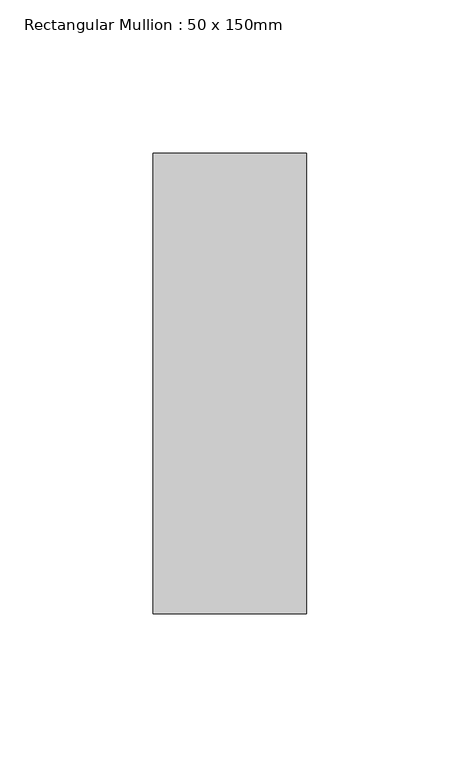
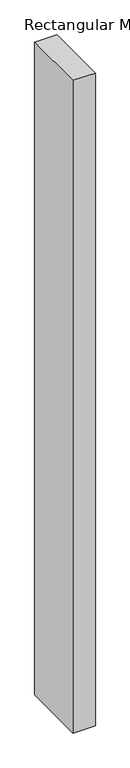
"""IFC4 building model written with IfcOpenShell, lengths in millimetres: member geometry, Rectangular Mullion : 50 x 150mm."""

from ifc_helpers import new_model, si_unit, frame, origin, place, context, project, spatial, polyline, outline, extrude, source, transform, mapped, element, save


def rectangular_mullion_50_x_150mm_52d5b9e4(model_context):
    return source(origin(), model_context, "Body", "SweptSolid", [
        extrude(outline(polyline([(0.0, 0.0), (-0.1256441, -50.0), (-1554.7616657, -50.0), (-1554.8632728, 0.0), (0.0, 0.0)])), frame((0.0, -75.0, 0.0), z_axis=(0.0, 1.0, 0.0), x_axis=(0.0, 0.0, 1.0)), (0.0, 0.0, 1.0), 150.0),
    ])


if __name__ == "__main__":
    model = new_model("IFC4")
    model_context = context("Model", 3, world=origin())
    ifc_project = project(units=[si_unit("LENGTHUNIT", "METRE", prefix="MILLI")], contexts=[model_context])
    site = spatial("IfcSite", under=ifc_project)
    building = spatial("IfcBuilding", under=site)
    placement = place(None, origin())
    rectangular_mullion_50_x_150mm_shape = rectangular_mullion_50_x_150mm_52d5b9e4(model_context)
    element("IfcMember", 1, ObjectType="Rectangular Mullion : 50 x 150mm", at=placement, inside=building, context=model_context, shape_type="MappedRepresentation", body=[
        mapped(rectangular_mullion_50_x_150mm_shape, transform((0.0, 0.0, 0.0), x_axis=(1.0, 0.0, 0.0), y_axis=(0.0, 1.0, 0.0), z_axis=(0.0, 0.0, 1.0))),
    ])
    save(model, "model.ifc")
